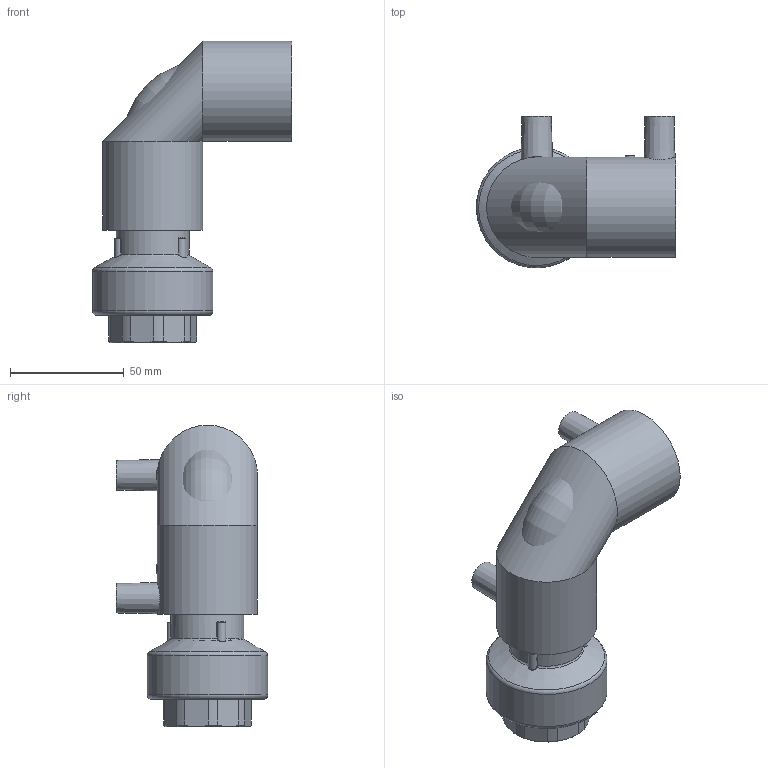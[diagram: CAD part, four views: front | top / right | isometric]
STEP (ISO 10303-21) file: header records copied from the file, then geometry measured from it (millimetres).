
FILE_DESCRIPTION(/* description */ ('Unknown'),/* implementation_level */ '2;1');
FILE_NAME(/* name */ 'GE9TFP032C',/* time_stamp */ '2021-03-02T10:38:28+01:00',/* author */ ('Unknown'),/* organization */ ('Unknown'),/* preprocessor_version */ 'ST-DEVELOPER v16.7',/* originating_system */ 'Solid Edge',/* authorisation */ 'Unknown');
FILE_SCHEMA (('AUTOMOTIVE_DESIGN {1 0 10303 214 3 1 1}'));
Length unit declared in the file: millimetre
Products named in the file (5): GE9TFP032C; GE9P032C; RTOFP032C; Parte PE 032; IOF032C
Assembly tree (4 placements, depth 3):
  GE9TFP032C
    GE9P032C
    RTOFP032C
      Parte PE 032
      IOF032C
Bounding box: 87.47 x 66.47 x 132.5 mm (x, y, z)
Volume: 149324.4 mm3; surface area: 63019.5 mm2
Topology: 3 solids, 3 shells, 515 faces, 1231 edges, 742 vertices
Faces by surface type: bspline 231, plane 111, cylinder 95, cone 41, torus 37
Full cylindrical faces by diameter (mm): 4 x4, 10 x2, 26 x1, 29.5 x4, 30.291 x1, 32 x3, 33.5 x2, 39.8 x2, 40 x2, 44 x6, 53 x1
Entity records: 18958 total; most frequent: CARTESIAN_POINT 6832, ORIENTED_EDGE 2360, DIRECTION 1926, EDGE_CURVE 1180, AXIS2_PLACEMENT_3D 897, VERTEX_POINT 732, EDGE_LOOP 582, FACE_BOUND 582
